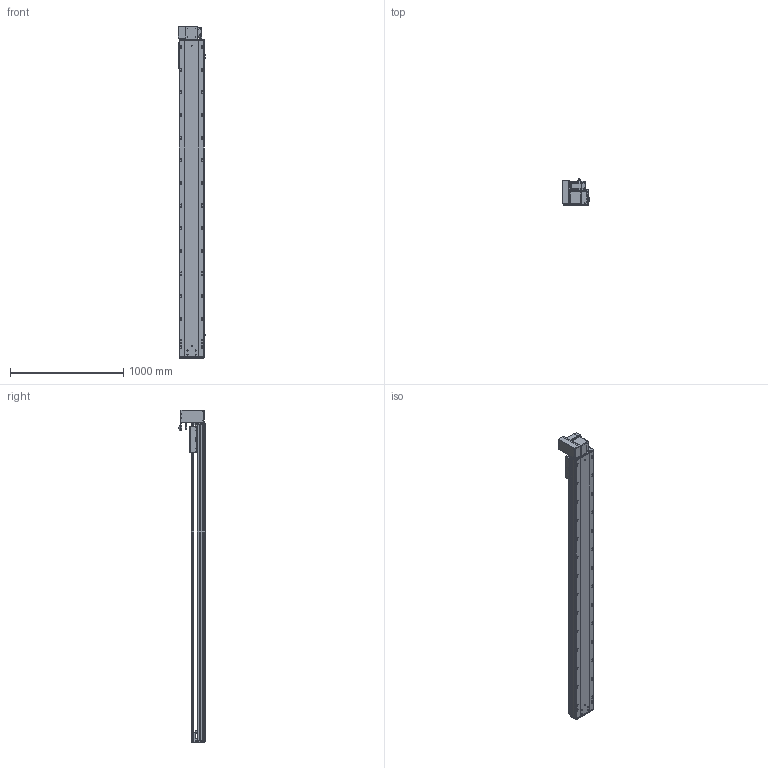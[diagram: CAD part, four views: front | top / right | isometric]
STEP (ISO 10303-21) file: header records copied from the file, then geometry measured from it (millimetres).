
FILE_DESCRIPTION (( 'STEP AP203' ), '1' );
FILE_NAME ('RY220-T-300-UL.SLDASM_2450.step', '2022-07-25T08:35:35', ( '' ), ( '' ), 'SwSTEP 2.0', 'SolidWorks 2016', '' );
FILE_SCHEMA (( 'CONFIG_CONTROL_DESIGN' ));
Length unit declared in the file: millimetre
Products named in the file (14): 怢湛750W_ECMA-CX0807ES; RY220-T-湍謫欶(鍼踢); RY220翋肮祭謫釱; RY220-T-300-奻裔啣_2450; 覜茼ん672; RY220圉猾敕々湍臏賑輸; RY220-俋离672覜茼んえ; RY220-T菁釱-300_2450; 滅袉蝶18-15; 110A-T-肮祭謫釱傷裔; RY220-同步轮副支撑座6304×2; RY220翋肮祭謫裔啣; RY220-T-300-UL.SLDASM_2450; RY220-T-蛌殏萇儂假蚾啣(750W)
Assembly tree (18 placements, depth 2):
  RY220-T-300-UL.SLDASM_2450
    RY220-T菁釱-300_2450
    RY220翋肮祭謫釱
    覜茼ん672  x3
    RY220圉猾敕々湍臏賑輸
    RY220-T-300-奻裔啣_2450
    RY220-俋离672覜茼んえ
    滅袉蝶18-15  x3
    RY220翋肮祭謫裔啣  x2
    110A-T-肮祭謫釱傷裔
    怢湛750W_ECMA-CX0807ES
    RY220-T-湍謫欶(鍼踢)
    RY220-T-蛌殏萇儂假蚾啣(750W)
    RY220-同步轮副支撑座6304×2
Bounding box: 239.7 x 231.74 x 2930.5 mm (x, y, z)
Volume: 21640523.3 mm3; surface area: 6639730.6 mm2
Topology: 19 solids, 19 shells, 2928 faces, 8099 edges, 5086 vertices
Faces by surface type: cylinder 1432, plane 1069, cone 345, bspline 56, sphere 16, torus 10
Entity records: 97683 total; most frequent: CARTESIAN_POINT 27637, ORIENTED_EDGE 14490, DIRECTION 13932, EDGE_CURVE 7245, AXIS2_PLACEMENT_3D 5010, VERTEX_POINT 4710, LINE 3912, VECTOR 3912
